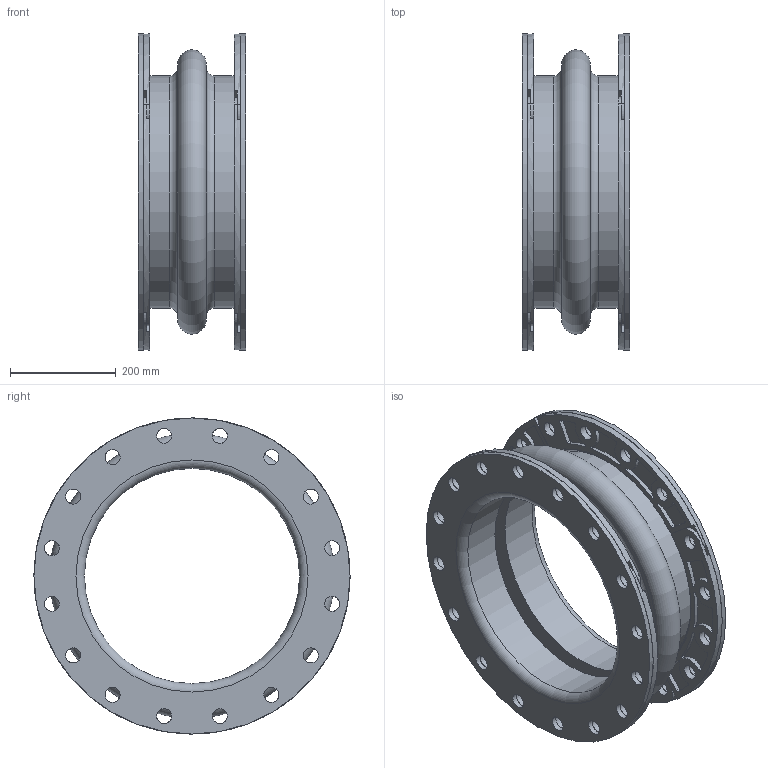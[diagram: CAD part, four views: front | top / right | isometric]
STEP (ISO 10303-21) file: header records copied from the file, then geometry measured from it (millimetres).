
FILE_DESCRIPTION(/* description */ (''),/* implementation_level */ '2;1');
FILE_NAME(/* name */ 'C:\001_Work\Designs\Mercer2014\MQInventor2014\RajR\500 Style\501\New folder\501 16IDx8FF.stp',/* time_stamp */ '2016-03-26T14:24:49-04:00',/* author */ ('rramoutar'),/* organization */ ('Mason Industries Inc.'),/* preprocessor_version */ 'ST-DEVELOPER v15.6',/* originating_system */ 'Autodesk Inventor 2015',/* authorisation */ '');
FILE_SCHEMA (('CONFIG_CONTROL_DESIGN'));
Length unit declared in the file: inch
Products named in the file (1): 501 16IDx8FF
Bounding box: 203.2 x 596.9 x 596.9 mm (x, y, z)
Volume: 10489530 mm3; surface area: 1939634 mm2
Topology: 3 solids, 3 shells, 592 faces, 1652 edges, 1096 vertices
Faces by surface type: cylinder 400, plane 164, torus 24, cone 4
Full cylindrical faces by diameter (mm): 28.575 x64, 406.4 x2, 438.15 x2, 450.85 x2, 596.9 x2
Entity records: 20426 total; most frequent: CARTESIAN_POINT 3909, DIRECTION 3582, ORIENTED_EDGE 3116, EDGE_CURVE 1558, AXIS2_PLACEMENT_3D 1471, VERTEX_POINT 1086, CIRCLE 878, EDGE_LOOP 840
